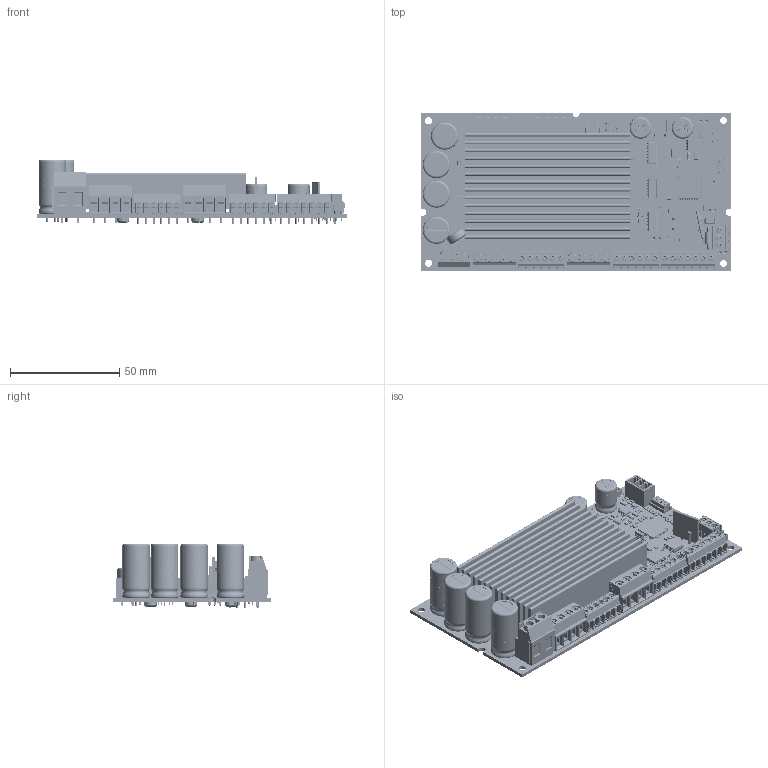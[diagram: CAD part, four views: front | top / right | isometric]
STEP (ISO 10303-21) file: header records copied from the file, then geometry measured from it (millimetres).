
FILE_DESCRIPTION(('STEP AP214'),'1');
FILE_NAME('EM-337_v3_BoardAndModels.step','2019-10-30T07:11:58',(' '),(' '),'Spatial InterOp 3D','XD3DPlugin XRACreate',' ');
FILE_SCHEMA(('automotive_design'));
Length unit declared in the file: millimetre
Products named in the file (166): Submodel-AssyDefn_1; M3X8 THREADFORMING SCREW, TORX HEAD.sat; EM-337_v3_BoardAndModels; Submodel-C:\Users\Tino Hellberg\works\3D kokeiluja\EM-337_v3_PCB\3D\Input_S\SK425 75 SA.xtd; SK425 75 SA; Submodel-HS_SK425-75-SA_part_simplified_HS-SK425-70SA; DesignRootModel; Submodel-C:\Users\Tino Hellberg\works\3D kokeiluja\EM-337_v3_PCB\3D\Input_S\RES 0805.xtd; RES 0805; Submodel-RES0805_100K_part_simplified_0805; Submodel-C:\Users\Tino Hellberg\works\3D kokeiluja\EM-337_v3_PCB\3D\Input_S\CAP 0603.xtd; CAP 0603; Submodel-CAP0603_10NF_part_simplified_0603; Submodel-C:\Users\Tino Hellberg\works\3D kokeiluja\EM-337_v3_PCB\3D\Input_S\sil socket 2-way.xtd; sil socket 2-way; Submodel-SW_V_SIL2_RESISTOR_SOCKET_part_simplified_SIL2-V-2.54_SOCKET; Submodel-RES0805_33K_part_simplified_0805; Submodel-C:\Users\Tino Hellberg\works\3D kokeiluja\EM-337_v3_PCB\3D\Input_S\TQFP-44.xtd; TQFP-44; Submodel-ATMEGA324_P-20AU_TQFP44_part_simplified_TQFP44; Submodel-C:\Users\Tino Hellberg\works\3D kokeiluja\EM-337_v3_PCB\3D\Input_S\pxc_1935776_00_PT-2-5-2-5-0-H_3D.xtd; pxc_1935776_00_PT-2-5-2-5-0-H_3D; Submodel-PT2.5_slash_2-5.0-H_part_simplified_CON-H2-9_slash_13.5_slash_5.0_SILKEDIT; Submodel-C:\Users\Tino Hellberg\works\3D kokeiluja\EM-337_v3_PCB\3D\Input_S\pxc_1984620_01_PT-1-5-3-3-5-H_3D.xtd; pxc_1984620_01_PT-1-5-3-3-5-H_3D; Submodel-PT1.5_slash_3-3.5-H_part_simplified_CON-H3-7.6_slash_9.2_slash_3.5_SILKEDIT; Submodel-C:\Users\Tino Hellberg\works\3D kokeiluja\EM-337_v3_PCB\3D\Input_S\pxc_1984617_01_PT-1-5-2-3-5-H_3D.xtd; pxc_1984617_01_PT-1-5-2-3-5-H_3D; Submodel-PT1.5_slash_2-3.5-H_part_simplified_CON-H2-7.6_slash_9.2_slash_3.5_SILKEDIT; Submodel-RES0805_2K2_part_simplified_0805; Submodel-RES0805_22K_part_simplified_0805; Submodel-RES0805_10K_part_simplified_0805; Submodel-RES0805_4K7_part_simplified_0805; Submodel-C:\Users\Tino Hellberg\works\3D kokeiluja\EM-337_v3_PCB\3D\Input_S\MO-187CA.xtd; MO-187CA; Submodel-NC7WZ86_MO187_DUAL_2-INPUT_XOR_part_simplified_MO-187; Submodel-C:\Users\Tino Hellberg\works\3D kokeiluja\EM-337_v3_PCB\3D\Input_S\SOT-23.xtd; SOT-23; Submodel-SM712_7_slash_12V_slash_600W-BIDIR-TVS_part_simplified_SOT23; Submodel-RES0805_10R_part_simplified_0805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
Assembly tree (394 placements, depth 5):
  EM-337_v3_BoardAndModels
    Submodel-AssyDefn_1  x6
      M3X8 THREADFORMING SCREW, TORX HEAD.sat
    DesignRootModel
      Submodel-HS_SK425-75-SA_part_simplified_HS-SK425-70SA
        Submodel-C:\Users\Tino Hellberg\works\3D kokeiluja\EM-337_v3_PCB\3D\Input_S\SK425 75 SA.xtd
          SK425 75 SA
      Submodel-RES0805_100K_part_simplified_0805  x17
        Submodel-C:\Users\Tino Hellberg\works\3D kokeiluja\EM-337_v3_PCB\3D\Input_S\RES 0805.xtd
          RES 0805
      Submodel-CAP0603_10NF_part_simplified_0603
        Submodel-C:\Users\Tino Hellberg\works\3D kokeiluja\EM-337_v3_PCB\3D\Input_S\CAP 0603.xtd
          CAP 0603
      Submodel-SW_V_SIL2_RESISTOR_SOCKET_part_simplified_SIL2-V-2.54_SOCKET  x4
        Submodel-C:\Users\Tino Hellberg\works\3D kokeiluja\EM-337_v3_PCB\3D\Input_S\sil socket 2-way.xtd
          sil socket 2-way
      Submodel-RES0805_33K_part_simplified_0805  x2
        Submodel-C:\Users\Tino Hellberg\works\3D kokeiluja\EM-337_v3_PCB\3D\Input_S\RES 0805.xtd
          RES 0805
      Submodel-ATMEGA324_P-20AU_TQFP44_part_simplified_TQFP44
        Submodel-C:\Users\Tino Hellberg\works\3D kokeiluja\EM-337_v3_PCB\3D\Input_S\TQFP-44.xtd
          TQFP-44
      Submodel-PT2.5_slash_2-5.0-H_part_simplified_CON-H2-9_slash_13.5_slash_5.0_SILKEDIT  x4
        Submodel-C:\Users\Tino Hellberg\works\3D kokeiluja\EM-337_v3_PCB\3D\Input_S\pxc_1935776_00_PT-2-5-2-5-0-H_3D.xtd
          pxc_1935776_00_PT-2-5-2-5-0-H_3D
      Submodel-PT1.5_slash_3-3.5-H_part_simplified_CON-H3-7.6_slash_9.2_slash_3.5_SILKEDIT  x6
        Submodel-C:\Users\Tino Hellberg\works\3D kokeiluja\EM-337_v3_PCB\3D\Input_S\pxc_1984620_01_PT-1-5-3-3-5-H_3D.xtd
          pxc_1984620_01_PT-1-5-3-3-5-H_3D
      Submodel-PT1.5_slash_2-3.5-H_part_simplified_CON-H2-7.6_slash_9.2_slash_3.5_SILKEDIT  x2
        Submodel-C:\Users\Tino Hellberg\works\3D kokeiluja\EM-337_v3_PCB\3D\Input_S\pxc_1984617_01_PT-1-5-2-3-5-H_3D.xtd
          pxc_1984617_01_PT-1-5-2-3-5-H_3D
      Submodel-RES0805_2K2_part_simplified_0805  x2
        Submodel-C:\Users\Tino Hellberg\works\3D kokeiluja\EM-337_v3_PCB\3D\Input_S\RES 0805.xtd
          RES 0805
      Submodel-RES0805_22K_part_simplified_0805  x4
        Submodel-C:\Users\Tino Hellberg\works\3D kokeiluja\EM-337_v3_PCB\3D\Input_S\RES 0805.xtd
          RES 0805
      Submodel-RES0805_10K_part_simplified_0805  x23
        Submodel-C:\Users\Tino Hellberg\works\3D kokeiluja\EM-337_v3_PCB\3D\Input_S\RES 0805.xtd
          RES 0805
      Submodel-RES0805_4K7_part_simplified_0805
        Submodel-C:\Users\Tino Hellberg\works\3D kokeiluja\EM-337_v3_PCB\3D\Input_S\RES 0805.xtd
          RES 0805
      Submodel-NC7WZ86_MO187_DUAL_2-INPUT_XOR_part_simplified_MO-187
        Submodel-C:\Users\Tino Hellberg\works\3D kokeiluja\EM-337_v3_PCB\3D\Input_S\MO-187CA.xtd
          MO-187CA
      Submodel-SM712_7_slash_12V_slash_600W-BIDIR-TVS_part_simplified_SOT23
        Submodel-C:\Users\Tino Hellberg\works\3D kokeiluja\EM-337_v3_PCB\3D\Input_S\SOT-23.xtd
          SOT-23
      Submodel-RES0805_10R_part_simplified_0805  x3
        Submodel-C:\Users\Tino Hellberg\works\3D kokeiluja\EM-337_v3_PCB\3D\Input_S\RES 0805.xtd
          RES 0805
      Submodel-CAP1206_10UF_10V_part_simplified_1206  x2
        Submodel-C:\Users\Tino Hellberg\works\3D kokeiluja\EM-337_v3_PCB\3D\Input_S\CAP 1206.xtd
          CAP 1206
      Submodel-WL-SMCW_0603_LED-RED_part_simplified_0603_LED
        Submodel-C:\Users\Tino Hellberg\works\3D kokeiluja\EM-337_v3_PCB\3D\Input_S\LED RED 0603.xtd
          LED RED 0603
      Submodel-MCV1.5_slash_3-G-3.5_part_simplified_MCV1_comma_5_slash_3-G-3_comma_5
        Submodel-C:\Users\Tino Hellberg\works\3D kokeiluja\EM-337_v3_PCB\3D\Input_S\pxc_1843619_03_MCV-1-5-3-G-3-5_3D.xtd
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Bounding box: 142.06 x 72.45 x 29.5 mm (x, y, z)
Volume: 109985.9 mm3; surface area: 131282.3 mm2
Topology: 714 solids, 720 shells, 31121 faces, 80501 edges, 50028 vertices
Faces by surface type: plane 18499, cylinder 7002, bspline 2873, sphere 1583, torus 788, cone 376
Full cylindrical faces by diameter (mm): 0.6 x2, 2 x4, 2.1 x34, 3.2 x10, 3.6 x2, 4.1 x2, 9 x2
Entity records: 410430 total; most frequent: CARTESIAN_POINT 123439, ORIENTED_EDGE 45712, DIRECTION 42185, EDGE_CURVE 22856, LINE 16057, VECTOR 16057, VERTEX_POINT 15072, AXIS2_PLACEMENT_3D 13064
